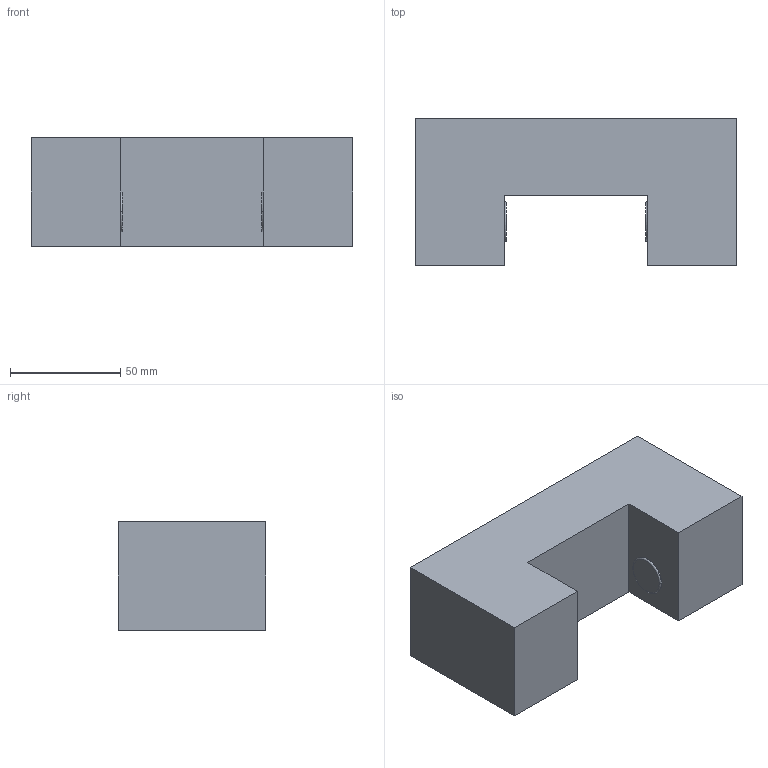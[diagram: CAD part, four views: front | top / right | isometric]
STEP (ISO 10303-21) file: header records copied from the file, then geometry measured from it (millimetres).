
FILE_DESCRIPTION((''),'2;1');
FILE_NAME('FRC65T15SE-DE01','2017-04-06T',('pietro.a'),(''),'CREO PARAMETRIC BY PTC INC, 2016050','CREO PARAMETRIC BY PTC INC, 2016050','');
FILE_SCHEMA(('CONFIG_CONTROL_DESIGN'));
Length unit declared in the file: millimetre
Products named in the file (1): FRC65T15SE-DE01
Bounding box: 146 x 67 x 49 mm (x, y, z)
Volume: 371852.3 mm3; surface area: 44796.1 mm2
Topology: 1 solids, 5 shells, 56 faces, 132 edges, 80 vertices
Faces by surface type: cylinder 20, plane 16, cone 16, torus 4
Entity records: 1603 total; most frequent: DIRECTION 302, CARTESIAN_POINT 261, ORIENTED_EDGE 232, EDGE_CURVE 124, AXIS2_PLACEMENT_3D 121, VERTEX_POINT 80, EDGE_LOOP 66, CIRCLE 64
